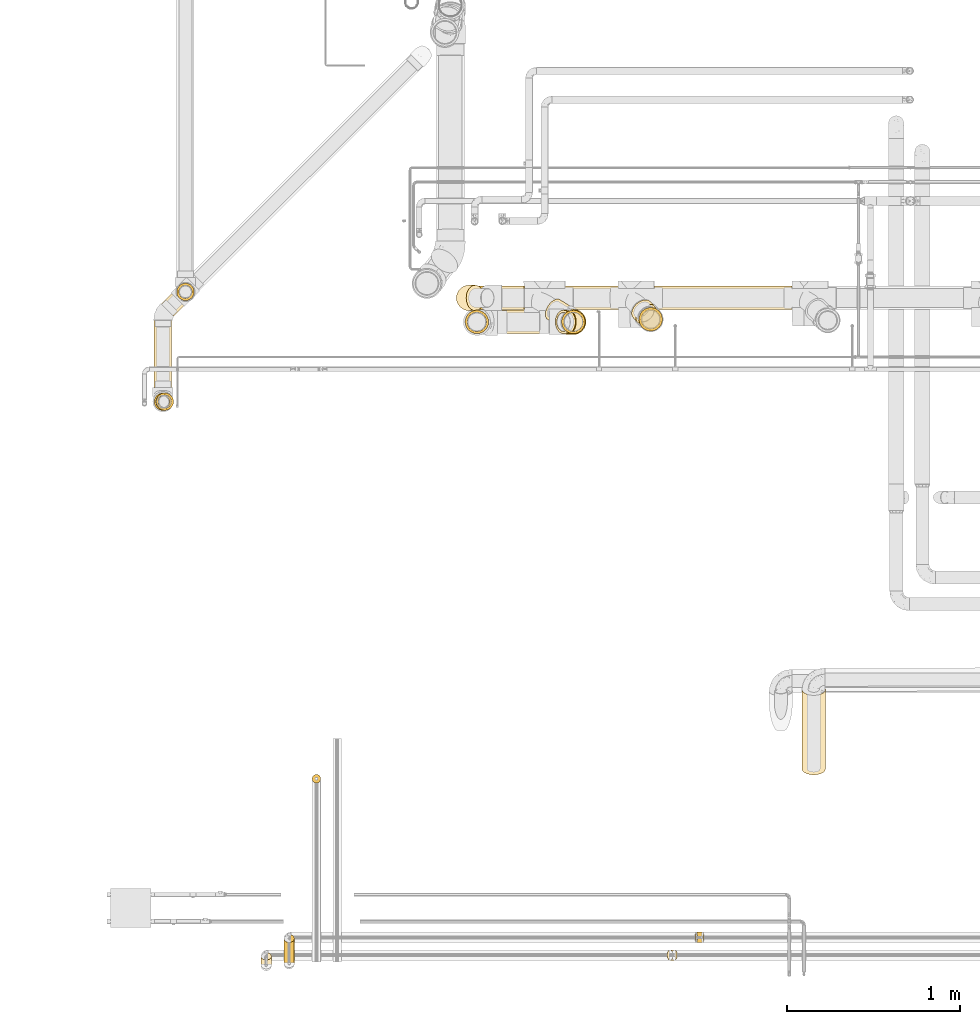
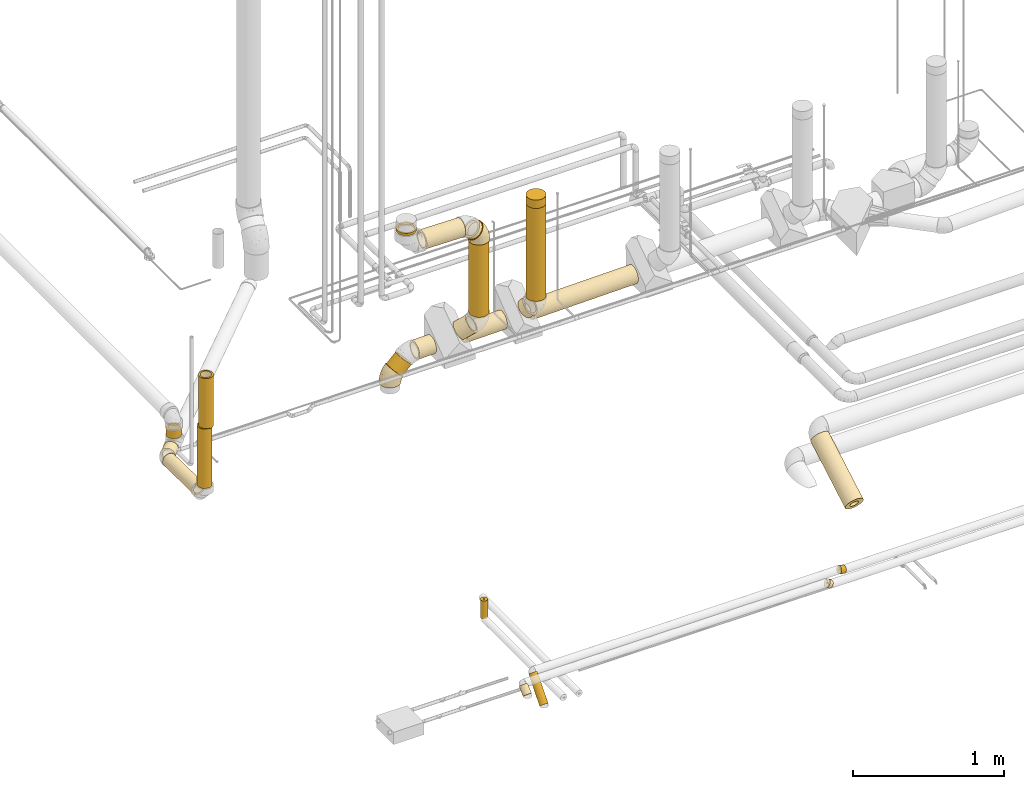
# One storey, part 2 of 156: 25 coverings.
"""IFC2X3 building model written with IfcOpenShell, lengths in millimetres."""

from ifc_helpers import new_model, entity, si_unit, converted_unit, derived_unit, direction, frame, origin_with_axes, origin_2d_with_axis, place, context, subcontext, project, spatial, hollow_circle, extrude, open_shell, surface_model, source, transform, mapped, element, save


model = new_model("IFC2X3")

# Units and contexts
model_context = context("Model", 3, precision=0.01, world=frame((0.0, 4.29681676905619e-09, 0.0)), true_north=direction((4.01073788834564e-13, 1.0)))
plan_context = context("Plan", 3, precision=0.01, world=frame((0.0, 4.29681676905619e-09, 0.0)), true_north=direction((4.01073788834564e-13, 1.0)))
body_context = subcontext(model_context, "Body", "Model", "MODEL_VIEW")
ifc_project = project(units=[converted_unit("PLANEANGLEUNIT", "DEGREE", entity("IfcPositiveLengthMeasure", 0.0174532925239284), si_unit("PLANEANGLEUNIT", "RADIAN"), dimensions=[0, 0, 0, 0, 0, 0, 0]), si_unit("AREAUNIT", "SQUARE_METRE"), si_unit("LENGTHUNIT", "METRE", prefix="MILLI"), si_unit("MASSUNIT", "GRAM", prefix="KILO"), si_unit("POWERUNIT", "WATT"), si_unit("PRESSUREUNIT", "PASCAL", prefix="KILO"), si_unit("FORCEUNIT", "NEWTON", prefix="KILO"), si_unit("ELECTRICVOLTAGEUNIT", "VOLT"), si_unit("ELECTRICCURRENTUNIT", "AMPERE"), si_unit("THERMODYNAMICTEMPERATUREUNIT", "DEGREE_CELSIUS"), si_unit("TIMEUNIT", "SECOND"), si_unit("VOLUMEUNIT", "CUBIC_METRE"), derived_unit("LINEARVELOCITYUNIT", [(si_unit("LENGTHUNIT", "METRE"), 1), (si_unit("TIMEUNIT", "SECOND"), -1)]), derived_unit("VOLUMETRICFLOWRATEUNIT", [(si_unit("VOLUMEUNIT", "CUBIC_METRE"), 1), (si_unit("TIMEUNIT", "SECOND"), -1)]), derived_unit("THERMALTRANSMITTANCEUNIT", [(si_unit("POWERUNIT", "WATT"), 1), (si_unit("THERMODYNAMICTEMPERATUREUNIT", "KELVIN"), -1), (si_unit("AREAUNIT", "SQUARE_METRE"), -1)]), derived_unit("SOUNDPRESSUREUNIT", [(si_unit("PRESSUREUNIT", "PASCAL"), 1)])], contexts=[model_context, plan_context])

# Site, building, storey
site_placement = place(None, frame((0.0, -4.29681676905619e-09, 0.0), z_axis=(0.0, 0.0, 1.0), x_axis=(1.0, 0.0, 0.0)))
site = spatial("IfcSite", under=ifc_project, at=site_placement, CompositionType="ELEMENT")
building_placement = place(site_placement, frame((0.0, 4.29681676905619e-09, 0.0), z_axis=(0.0, 0.0, 1.0), x_axis=(1.0, 0.0, 0.0)))
building = spatial("IfcBuilding", under=site, at=building_placement, Name="mc-building", CompositionType="ELEMENT")
storey_placement = place(building_placement, frame((0.0, 0.0, 205200.0), z_axis=(0.0, 0.0, 1.0), x_axis=(1.0, 0.0, 0.0)))
storey = spatial("IfcBuildingStorey", under=building, at=storey_placement, Name="Nivå D + 1,2 m", CompositionType="ELEMENT", Elevation=205200.0)

# Coverings
shared_shape_1 = source(origin_with_axes(), body_context, "Body", "SweptSolid", [
    extrude(hollow_circle(Radius=50.5, WallThickness=13.0, at=origin_2d_with_axis()), frame((0.0, 0.0, 0.0), z_axis=(1.0, 0.0, 0.0), x_axis=(0.0, 1.0, 0.0)), (0.0, 0.0, 1.0), 412.0),
])
covering_1_placement = place(storey_placement, frame((322659.16821, 462125.55139, 4598.01287999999), z_axis=(0.0, 1.0, 0.0), x_axis=(0.0, 0.0, 1.0)))
element("IfcCovering", 1, at=covering_1_placement, inside=storey, Name="BI17T - Cellegummi 13 mm SPV fett", PredefinedType="INSULATION", context=body_context, shape_type="MappedRepresentation", body=[
    mapped(shared_shape_1, transform((0.0, 0.0, 0.0), scale=1.0)),
])
shared_shape_2 = source(origin_with_axes(), body_context, "Body", "SweptSolid", [
    extrude(hollow_circle(Radius=68.0, WallThickness=13.0, at=origin_2d_with_axis()), frame((0.0, 0.0, 0.0), z_axis=(1.0, 0.0, 0.0), x_axis=(0.0, 1.0, 0.0)), (0.0, 0.0, 1.0), 99.0),
])
covering_2_placement = place(storey_placement, frame((324452.0866, 462724.75736, 4056.94635000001), z_axis=(-0.707106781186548, 0.0, 0.707106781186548), x_axis=(0.707106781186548, 0.0, 0.707106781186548)))
element("IfcCovering", 2, at=covering_2_placement, inside=storey, Name="BI17T - Cellegummi 13 mm SPV fett", PredefinedType="INSULATION", context=body_context, shape_type="MappedRepresentation", body=[
    mapped(shared_shape_2, transform((0.0, 0.0, 0.0), scale=1.0)),
])
shared_shape_3 = source(origin_with_axes(), body_context, "Body", "SurfaceModel", [
    surface_model("IfcShellBasedSurfaceModel", [(15.55917, 55.32099, 67.90986), (25.30961, 45.57056, 72.0902), (35.44008, 35.44008, 73.5), (55.3333, 15.54685, 67.90265), (64.31953, 6.56064, 61.10815), (45.58191, 25.29825, 72.08701), (-50.11984, 70.99555, -19.0232), (-50.11984, 70.99555, 19.0232), (-50.11984, 73.5, 0.0), (-50.11984, 63.65287, -36.75), (-50.11984, -19.0232, 70.99555), (-50.11984, 36.75, -63.65287), (-50.11984, 0.0, -73.5), (-50.11984, 51.97235, -51.97235), (-50.11984, 51.97235, 51.97235), (-50.11984, 63.65287, 36.75), (-50.11984, 19.0232, 70.99555), (-50.11984, 36.75, 63.65287), (-50.11984, 0.0, 73.5), (-50.11984, 19.0232, -70.99555), (-50.11984, -19.0232, -70.99555), (-50.11984, -51.97235, -51.97235), (-50.11984, -36.75, -63.65287), (-50.11984, -63.65287, -36.75), (-50.11984, -73.5, 0.0), (-50.11984, -70.99555, -19.0232), (-50.11984, -36.75, 63.65287), (-50.11984, -63.65287, 36.75), (-50.11984, -51.97235, 51.97235), (-50.11984, -70.99555, 19.0232), (4.83385, -11.66995, 69.93889), (-12.17477, -69.76274, 0.0), (5.47106, -63.34082, 16.85797), (24.31209, -58.69457, 0.0), (52.8356, -40.58128, 20.46241), (31.28542, -13.95595, 63.73529), (-11.70209, -55.05863, 43.55959), (-15.48663, -63.93403, 29.88743), (-5.11298, -30.31246, 63.58684), (22.17475, -51.29307, 32.65824), (17.5441, -34.97729, 54.76439), (-17.48463, -44.85254, 55.63353), (18.60902, -45.081, 44.17956), (-18.80274, 4.12297, 73.5), (51.47749, -35.2588, 33.5744), (57.93857, -40.72084, 0.0), (86.41555, -15.53539, 14.32665), (46.47904, -17.36978, 55.87406), (72.19529, -1.31513, 51.96498), (46.39615, -29.49322, 45.42373), (78.65805, -7.77789, 40.82479), (87.41242, -16.53227, 0.0), (10.38016, 16.21093, 73.5), (83.4596, -12.57944, 28.11586), (-41.03111, 75.30786, 0.0), (-29.5257, 16.17258, 72.12139), (-1.30471, 72.18487, 51.97971), (-16.17803, 66.51802, 46.63532), (-7.93405, 59.30084, 57.11817), (-1.68407, 33.88345, 70.33875), (-27.47038, 30.93139, 67.90515), (-15.53313, 86.41329, 14.34271), (-24.23732, 82.26407, 0.0), (-23.32895, 77.99618, 21.34079), (-21.65683, 52.28078, 56.82324), (-36.7774, 45.92029, 58.31147), (-35.68555, 73.38962, 18.04818), (-36.78684, 59.74575, 44.74396), (-27.98661, 69.36105, 34.6544), (-39.43278, 67.5041, 31.41719), (-12.57434, 83.4545, 28.13327), (-18.04026, 74.87686, 34.65411), (-7.7699, 78.65006, 40.8417), (6.57259, 64.30757, 61.11944), (-9.78753, 45.50133, 64.41145), (-31.94238, 77.11572, 0.0), (-16.53227, 87.41242, 0.0), (-39.43365, 67.50229, -31.42059), (-27.98963, 69.36981, -34.63712), (-36.7799, 59.74727, -44.74397), (-35.67695, 73.39476, -18.03863), (-18.03545, 74.89115, -34.6373), (-7.77789, 78.65805, -40.82479), (-16.18434, 66.52948, -46.61941), (-15.53539, 86.41555, -14.32665), (-16.39465, 20.01782, -72.04848), (-27.48676, 30.92728, -67.90515), (-1.71519, 33.88543, -70.33364), (-9.79264, 45.51856, -64.40178), (-21.66049, 52.29649, -56.81019), (-7.94214, 59.31576, -57.10449), (-18.80274, 4.12297, -73.5), (-36.77418, 45.92087, -58.31147), (-23.33104, 78.00091, -21.32394), (-12.57944, 83.4596, -28.11586), (15.54685, 55.3333, -67.90265), (-1.31513, 72.19529, -51.96498), (6.56064, 64.31953, -61.10815), (25.29825, 45.58191, -72.08701), (35.44008, 35.44008, -73.5), (10.38016, 16.21093, -73.5), (64.30757, 6.57259, -61.11944), (72.18487, -1.30471, -51.97971), (46.46727, -17.35932, -55.88715), (46.38681, -29.48448, -45.4395), (18.21757, -44.64753, -44.90164), (17.53181, -34.96665, -54.77751), (31.27347, -13.94379, -63.74481), (45.57056, 25.30961, -72.0902), (55.32099, 15.55917, -67.90986), (4.83385, -11.66995, -69.93889), (-5.08832, -30.29523, -63.59234), (-17.50112, -44.84165, -55.64551), (-11.71909, -55.06193, -43.56013), (22.17334, -51.28457, -32.67513), (52.83268, -40.57748, -20.47889), (5.47018, -63.33879, -16.8673), (-15.49272, -63.93366, -29.89077), (78.65006, -7.7699, -40.8417), (58.20434, -30.61628, -33.66415), (83.4545, -12.57434, -28.13327), (86.41329, -15.53313, -14.34271)], [open_shell([[[0, 1, 2]], [[3, 4, 5]], [[6, 7, 8]], [[9, 10, 6]], [[11, 12, 13]], [[13, 10, 9]], [[10, 14, 6]], [[7, 14, 15]], [[7, 6, 14]], [[14, 16, 17]], [[16, 14, 18]], [[14, 10, 18]], [[19, 12, 11]], [[20, 10, 12]], [[21, 20, 22]], [[10, 21, 23]], [[20, 21, 10]], [[24, 23, 25]], [[26, 27, 28]], [[26, 10, 23]], [[27, 24, 29]], [[27, 26, 23]], [[24, 27, 23]], [[12, 10, 13]], [[3, 5, 30]], [[29, 24, 31]], [[32, 31, 33]], [[33, 34, 32]], [[4, 3, 35]], [[36, 27, 37]], [[10, 26, 38]], [[34, 39, 32]], [[40, 41, 42]], [[40, 38, 41]], [[10, 43, 18]], [[43, 10, 30]], [[27, 36, 28]], [[3, 30, 35]], [[35, 38, 40]], [[44, 39, 34]], [[33, 45, 34]], [[45, 46, 34]], [[47, 48, 4]], [[44, 49, 42]], [[44, 50, 49]], [[46, 45, 51]], [[41, 26, 28]], [[10, 38, 30]], [[47, 49, 48]], [[36, 42, 41]], [[52, 5, 2]], [[30, 52, 43]], [[39, 36, 37]], [[29, 32, 37]], [[5, 52, 30]], [[47, 35, 40]], [[49, 47, 40]], [[35, 47, 4]], [[50, 48, 49]], [[29, 31, 32]], [[42, 36, 39]], [[34, 46, 53]], [[26, 41, 38]], [[38, 35, 30]], [[36, 41, 28]], [[29, 37, 27]], [[39, 37, 32]], [[34, 53, 44]], [[50, 44, 53]], [[44, 42, 39]], [[40, 42, 49]], [[54, 8, 7]], [[18, 43, 55]], [[56, 57, 58]], [[59, 60, 55]], [[61, 62, 63]], [[60, 64, 65]], [[54, 7, 66]], [[65, 67, 14]], [[63, 66, 68]], [[67, 15, 14]], [[67, 68, 69]], [[15, 67, 69]], [[58, 57, 64]], [[69, 7, 15]], [[43, 52, 59]], [[60, 65, 17]], [[70, 71, 72]], [[73, 74, 0]], [[1, 0, 59]], [[1, 52, 2]], [[66, 75, 54]], [[74, 73, 58]], [[60, 59, 74]], [[17, 16, 60]], [[56, 72, 57]], [[14, 17, 65]], [[75, 66, 63]], [[67, 57, 68]], [[55, 60, 16]], [[57, 71, 68]], [[70, 61, 63]], [[63, 68, 71]], [[68, 66, 69]], [[59, 52, 1]], [[7, 69, 66]], [[57, 67, 64]], [[67, 65, 64]], [[72, 71, 57]], [[70, 63, 71]], [[74, 58, 64]], [[56, 58, 73]], [[60, 74, 64]], [[0, 74, 59]], [[62, 61, 76]], [[62, 75, 63]], [[18, 55, 16]], [[59, 55, 43]], [[77, 78, 79]], [[6, 54, 80]], [[81, 82, 83]], [[62, 76, 84]], [[85, 86, 87]], [[88, 89, 90]], [[12, 19, 91]], [[83, 79, 78]], [[88, 86, 89]], [[6, 80, 77]], [[92, 11, 13]], [[19, 11, 86]], [[79, 83, 89]], [[80, 93, 78]], [[84, 94, 93]], [[79, 92, 13]], [[89, 83, 90]], [[87, 88, 95]], [[94, 82, 81]], [[82, 96, 83]], [[9, 79, 13]], [[77, 79, 9]], [[81, 78, 93]], [[90, 96, 97]], [[86, 85, 19]], [[95, 98, 87]], [[98, 99, 100]], [[80, 75, 93]], [[86, 11, 92]], [[100, 87, 98]], [[85, 100, 91]], [[100, 85, 87]], [[6, 77, 9]], [[84, 93, 62]], [[80, 78, 77]], [[92, 79, 89]], [[86, 92, 89]], [[78, 81, 83]], [[94, 81, 93]], [[96, 90, 83]], [[97, 95, 88]], [[88, 90, 97]], [[86, 88, 87]], [[93, 75, 62]], [[54, 6, 8]], [[54, 75, 80]], [[19, 85, 91]], [[101, 102, 103]], [[104, 105, 106]], [[20, 12, 91]], [[107, 103, 106]], [[108, 109, 110]], [[111, 110, 107]], [[112, 113, 21]], [[110, 111, 20]], [[24, 25, 31]], [[112, 106, 105]], [[114, 115, 116]], [[33, 31, 116]], [[113, 23, 21]], [[113, 117, 23]], [[20, 111, 22]], [[112, 22, 111]], [[110, 91, 100]], [[112, 111, 106]], [[100, 99, 108]], [[114, 116, 117]], [[101, 103, 107]], [[31, 25, 116]], [[110, 109, 107]], [[110, 20, 91]], [[117, 25, 23]], [[102, 118, 104]], [[115, 119, 120]], [[106, 103, 104]], [[105, 114, 113]], [[33, 116, 115]], [[121, 51, 45]], [[33, 115, 45]], [[121, 45, 115]], [[114, 104, 119]], [[118, 120, 119]], [[121, 115, 120]], [[111, 107, 106]], [[110, 100, 108]], [[104, 103, 102]], [[107, 109, 101]], [[22, 112, 21]], [[114, 117, 113]], [[25, 117, 116]], [[114, 119, 115]], [[118, 119, 104]], [[114, 105, 104]], [[112, 105, 113]], [[61, 70, 0]], [[61, 84, 76]], [[56, 70, 72]], [[95, 61, 120]], [[56, 73, 0]], [[70, 56, 0]], [[61, 0, 120]], [[84, 61, 94]], [[96, 82, 61]], [[61, 82, 94]], [[97, 96, 95]], [[99, 98, 95]], [[96, 61, 95]], [[95, 120, 99]], [[53, 2, 5]], [[48, 5, 4]], [[48, 50, 53]], [[53, 120, 2]], [[53, 5, 48]], [[51, 53, 46]], [[120, 102, 101]], [[120, 101, 109]], [[109, 108, 99]], [[121, 120, 53]], [[118, 102, 120]], [[120, 109, 99]], [[51, 121, 53]], [[120, 0, 2]]])]),
])
for number, where, z_axis, x_axis in (
    (3, (324416.64652, 462724.75736, 4021.50627000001), (0.0, 1.0, 0.0), (0.0, 0.0, 1.0)),
    (4, (325018.86668, 462586.08797, 5053.58843), (0.0, -1.0, 0.0), (0.0, 0.0, 1.0)),
):
    element("IfcCovering", number, at=place(storey_placement, frame(where, z_axis=z_axis, x_axis=x_axis)), inside=storey, Name="BI17T - Cellegummi 13 mm SPV fett", PredefinedType="INSULATION", context=body_context, shape_type="MappedRepresentation", body=[
        mapped(shared_shape_3, transform((0.0, 0.0, 0.0), scale=1.0)),
    ])
shared_shape_4 = source(origin_with_axes(), body_context, "Body", "SweptSolid", [
    extrude(hollow_circle(Radius=68.0, WallThickness=13.0, at=origin_2d_with_axis()), frame((0.0, 0.0, 0.0), z_axis=(1.0, 0.0, 0.0), x_axis=(0.0, 1.0, 0.0)), (0.0, 0.0, 1.0), 752.9),
])
covering_3_placement = place(storey_placement, frame((325465.89291, 462601.38941, 4378.03833000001), z_axis=(0.680367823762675, -0.732870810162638, 2.17099943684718e-09), x_axis=(1.3999999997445e-05, 1.29999999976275e-05, 0.9999999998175)))
element("IfcCovering", 5, at=covering_3_placement, inside=storey, Name="BI17T - Cellegummi 13 mm SPV fett", PredefinedType="INSULATION", context=body_context, shape_type="MappedRepresentation", body=[
    mapped(shared_shape_4, transform((0.0, 0.0, 0.0), scale=1.0)),
])
shared_shape_5 = source(origin_with_axes(), body_context, "Body", "SweptSolid", [
    extrude(hollow_circle(Radius=68.0, WallThickness=13.0, at=origin_2d_with_axis()), frame((0.0, 0.0, 0.0), z_axis=(1.0, 0.0, 0.0), x_axis=(0.0, 1.0, 0.0)), (0.0, 0.0, 1.0), 47.0),
])
covering_4_placement = place(storey_placement, frame((325438.05694, 462631.37343, 4287.33501000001), z_axis=(0.860099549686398, 0.335303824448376, -0.384447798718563), x_axis=(-0.510013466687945, 0.549370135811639, -0.661875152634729)))
element("IfcCovering", 6, at=covering_4_placement, inside=storey, Name="BI17T - Cellegummi 13 mm SPV fett", PredefinedType="INSULATION", context=body_context, shape_type="MappedRepresentation", body=[
    mapped(shared_shape_5, transform((0.0, 0.0, 0.0), scale=1.0)),
])
shared_shape_6 = source(origin_with_axes(), body_context, "Body", "SweptSolid", [
    extrude(hollow_circle(Radius=68.0, WallThickness=13.0, at=origin_2d_with_axis()), frame((0.0, 0.0, 0.0), z_axis=(1.0, 0.0, 0.0), x_axis=(0.0, 1.0, 0.0)), (0.0, 0.0, 1.0), 307.3),
])
covering_5_placement = place(storey_placement, frame((324972.19577, 462724.75736, 4168.50766), z_axis=(-0.0166640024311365, 0.0, 0.999861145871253), x_axis=(0.999861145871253, 0.0, 0.0166640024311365)))
element("IfcCovering", 7, at=covering_5_placement, inside=storey, Name="BI17T - Cellegummi 13 mm SPV fett", PredefinedType="INSULATION", context=body_context, shape_type="MappedRepresentation", body=[
    mapped(shared_shape_6, transform((0.0, 0.0, 0.0), scale=1.0)),
])
shared_shape_7 = source(origin_with_axes(), body_context, "Body", "SweptSolid", [
    extrude(hollow_circle(Radius=68.0, WallThickness=13.0, at=origin_2d_with_axis()), frame((0.0, 0.0, 0.0), z_axis=(1.0, 0.0, 0.0), x_axis=(0.0, 1.0, 0.0)), (0.0, 0.0, 1.0), 589.8),
])
covering_6_placement = place(storey_placement, frame((325018.86668, 462586.08797, 4413.68244), z_axis=(0.844860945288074, -0.534985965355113, 0.0), x_axis=(0.0, 0.0, 1.0)))
element("IfcCovering", 8, at=covering_6_placement, inside=storey, Name="BI17T - Cellegummi 13 mm SPV fett", PredefinedType="INSULATION", context=body_context, shape_type="MappedRepresentation", body=[
    mapped(shared_shape_7, transform((0.0, 0.0, 0.0), scale=1.0)),
])
shared_shape_8 = source(origin_with_axes(), body_context, "Body", "SweptSolid", [
    extrude(hollow_circle(Radius=68.0, WallThickness=13.0, at=origin_2d_with_axis()), frame((0.0, 0.0, 0.0), z_axis=(1.0, 0.0, 0.0), x_axis=(0.0, 1.0, 0.0)), (0.0, 0.0, 1.0), 101.9),
])
covering_7_placement = place(storey_placement, frame((324976.22439, 462613.09008, 4315.36215), z_axis=(0.72705601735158, 0.421509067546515, -0.541959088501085), x_axis=(-0.686504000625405, 0.434711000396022, -0.582871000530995)))
element("IfcCovering", 9, at=covering_7_placement, inside=storey, Name="BI17T - Cellegummi 13 mm SPV fett", PredefinedType="INSULATION", context=body_context, shape_type="MappedRepresentation", body=[
    mapped(shared_shape_8, transform((0.0, 0.0, 0.0), scale=1.0)),
])
shared_shape_9 = source(origin_with_axes(), body_context, "Body", "SweptSolid", [
    extrude(hollow_circle(Radius=68.0, WallThickness=13.0, at=origin_2d_with_axis()), frame((0.0, 0.0, 0.0), z_axis=(1.0, 0.0, 0.0), x_axis=(0.0, 1.0, 0.0)), (0.0, 0.0, 1.0), 129.8),
])
covering_8_placement = place(storey_placement, frame((324605.65923, 462724.75736, 4162.39872), z_axis=(-0.0166640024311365, 0.0, 0.999861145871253), x_axis=(0.999861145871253, 0.0, 0.0166640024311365)))
element("IfcCovering", 10, at=covering_8_placement, inside=storey, Name="BI17T - Cellegummi 13 mm SPV fett", PredefinedType="INSULATION", context=body_context, shape_type="MappedRepresentation", body=[
    mapped(shared_shape_9, transform((0.0, 0.0, 0.0), scale=1.0)),
])
shared_shape_10 = source(origin_with_axes(), body_context, "Body", "SweptSolid", [
    extrude(hollow_circle(Radius=68.0, WallThickness=13.0, at=origin_2d_with_axis()), frame((0.0, 0.0, 0.0), z_axis=(1.0, 0.0, 0.0), x_axis=(0.0, 1.0, 0.0)), (0.0, 0.0, 1.0), 29.3),
])
covering_9_placement = place(storey_placement, frame((324983.4266, 462586.08797, 5089.02851), z_axis=(0.707106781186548, 0.0, 0.707106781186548), x_axis=(-0.707106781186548, 0.0, 0.707106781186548)))
element("IfcCovering", 11, at=covering_9_placement, inside=storey, Name="BI17T - Cellegummi 13 mm SPV fett", PredefinedType="INSULATION", context=body_context, shape_type="MappedRepresentation", body=[
    mapped(shared_shape_10, transform((0.0, 0.0, 0.0), scale=1.0)),
])
shared_shape_11 = source(origin_with_axes(), body_context, "Body", "SweptSolid", [
    extrude(hollow_circle(Radius=68.0, WallThickness=13.0, at=origin_2d_with_axis()), frame((0.0, 0.0, 0.0), z_axis=(1.0, 0.0, 0.0), x_axis=(0.0, 1.0, 0.0)), (0.0, 0.0, 1.0), 796.4),
])
covering_10_placement = place(storey_placement, frame((325487.37227, 462724.75736, 4177.09393999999), z_axis=(-0.0166640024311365, 0.0, 0.999861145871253), x_axis=(0.999861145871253, 0.0, 0.0166640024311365)))
element("IfcCovering", 12, at=covering_10_placement, inside=storey, Name="BI17T - Cellegummi 13 mm SPV fett", PredefinedType="INSULATION", context=body_context, shape_type="MappedRepresentation", body=[
    mapped(shared_shape_11, transform((0.0, 0.0, 0.0), scale=1.0)),
])
shared_shape_12 = source(origin_with_axes(), body_context, "Body", "SurfaceModel", [
    surface_model("IfcShellBasedSurfaceModel", [(68.0, 34.0, 58.88973), (0.0, 34.0, 58.88973), (0.0, 17.5997, 65.68295), (68.0, 17.5997, 65.68295), (0.0, 0.0, 68.0), (68.0, 48.08326, 48.08326), (68.0, 0.0, 68.0), (0.0, 48.08326, 48.08326), (68.0, -34.0, 58.88973), (0.0, -34.0, 58.88973), (0.0, -48.08326, 48.08326), (0.0, -17.5997, 65.68295), (68.0, -17.5997, 65.68295), (68.0, -48.08326, 48.08326), (68.0, -58.88973, 34.0), (0.0, -58.88973, 34.0), (0.0, -65.68295, 17.5997), (68.0, -65.68295, 17.5997), (0.0, -68.0, 0.0), (68.0, -68.0, 0.0), (68.0, -65.68295, -17.5997), (0.0, -65.68295, -17.5997), (0.0, -58.88973, -34.0), (68.0, -58.88973, -34.0), (0.0, -48.08326, -48.08326), (68.0, -48.08326, -48.08326), (68.0, -34.0, -58.88973), (0.0, -34.0, -58.88973), (0.0, -17.5997, -65.68295), (68.0, -17.5997, -65.68295), (0.0, 0.0, -68.0), (68.0, 0.0, -68.0), (68.0, 17.5997, -65.68295), (0.0, 17.5997, -65.68295), (0.0, 34.0, -58.88973), (68.0, 34.0, -58.88973), (0.0, 48.08326, -48.08326), (68.0, 48.08326, -48.08326), (68.0, 58.88973, -34.0), (0.0, 58.88973, -34.0), (0.0, 65.68295, -17.5997), (68.0, 65.68295, -17.5997), (0.0, 68.0, 0.0), (68.0, 68.0, 0.0), (68.0, 65.68295, 17.5997), (68.0, 58.88973, 34.0), (0.0, 58.88973, 34.0), (0.0, 65.68295, 17.5997)], [open_shell([[[0, 1, 2]], [[3, 2, 4]], [[5, 1, 0]], [[0, 2, 3]], [[4, 6, 3]], [[1, 5, 7]], [[8, 9, 10]], [[6, 11, 12]], [[11, 6, 4]], [[12, 11, 9]], [[9, 8, 12]], [[10, 13, 8]], [[14, 15, 16]], [[17, 16, 18]], [[13, 15, 14]], [[14, 16, 17]], [[18, 19, 17]], [[15, 13, 10]], [[20, 21, 22]], [[23, 22, 24]], [[18, 21, 19]], [[19, 21, 20]], [[22, 23, 20]], [[24, 25, 23]], [[26, 27, 28]], [[29, 28, 30]], [[25, 27, 26]], [[26, 28, 29]], [[30, 31, 29]], [[27, 25, 24]], [[32, 33, 34]], [[35, 34, 36]], [[30, 33, 31]], [[31, 33, 32]], [[34, 35, 32]], [[36, 37, 35]], [[38, 39, 40]], [[41, 40, 42]], [[37, 39, 38]], [[38, 40, 41]], [[42, 43, 41]], [[39, 37, 36]], [[38, 35, 37]], [[38, 32, 35]], [[41, 43, 32]], [[41, 32, 38]], [[32, 43, 31]], [[31, 44, 29]], [[29, 44, 26]], [[5, 25, 26]], [[25, 0, 23]], [[23, 0, 20]], [[44, 31, 43]], [[45, 5, 26]], [[25, 5, 0]], [[3, 6, 20]], [[3, 20, 0]], [[6, 19, 20]], [[17, 12, 14]], [[17, 19, 6]], [[14, 8, 13]], [[8, 14, 12]], [[6, 12, 17]], [[45, 26, 44]], [[21, 18, 4]], [[4, 2, 21]], [[7, 22, 1]], [[1, 21, 2]], [[7, 46, 27]], [[9, 15, 10]], [[15, 9, 11]], [[11, 16, 15]], [[11, 4, 16]], [[4, 18, 16]], [[46, 47, 27]], [[33, 42, 40]], [[33, 40, 39]], [[34, 33, 39]], [[34, 39, 36]], [[42, 33, 30]], [[24, 22, 7]], [[21, 1, 22]], [[28, 27, 47]], [[24, 7, 27]], [[42, 30, 28]], [[28, 47, 42]], [[44, 47, 46]], [[45, 46, 7]], [[42, 47, 43]], [[43, 47, 44]], [[46, 45, 44]], [[7, 5, 45]]])]),
])
covering_11_placement = place(storey_placement, frame((325465.90325, 462601.39901, 5130.97503999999), z_axis=(0.99999999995, -2.58493941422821e-26, -9.9999999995e-06), x_axis=(9.999999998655e-06, 1.29999999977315e-05, 0.9999999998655)))
element("IfcCovering", 13, at=covering_11_placement, inside=storey, Name="BI17T - Cellegummi 13 mm SPV fett", PredefinedType="INSULATION", context=body_context, shape_type="MappedRepresentation", body=[
    mapped(shared_shape_12, transform((0.0, 0.0, 0.0), scale=1.0)),
])
shared_shape_13 = source(origin_with_axes(), body_context, "Body", "SweptSolid", [
    extrude(hollow_circle(Radius=68.0, WallThickness=13.0, at=origin_2d_with_axis()), frame((0.0, 0.0, 0.0), z_axis=(1.0, 0.0, 0.0), x_axis=(0.0, 1.0, 0.0)), (0.0, 0.0, 1.0), 298.5),
])
covering_12_placement = place(storey_placement, frame((324879.13368, 462586.08797, 5145.20117000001), z_axis=(0.0166640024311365, 0.0, 0.999861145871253), x_axis=(-0.999861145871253, 0.0, 0.0166640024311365)))
element("IfcCovering", 14, at=covering_12_placement, inside=storey, Name="BI17T - Cellegummi 13 mm SPV fett", PredefinedType="INSULATION", context=body_context, shape_type="MappedRepresentation", body=[
    mapped(shared_shape_13, transform((0.0, 0.0, 0.0), scale=1.0)),
])
shared_shape_14 = source(origin_with_axes(), body_context, "Body", "SweptSolid", [
    extrude(hollow_circle(Radius=68.0, WallThickness=13.0, at=origin_2d_with_axis()), frame((0.0, 0.0, 0.0), z_axis=(1.0, 0.0, 0.0), x_axis=(0.0, 1.0, 0.0)), (0.0, 0.0, 1.0), 19.3),
])
covering_13_placement = place(storey_placement, frame((324461.67326, 462586.08797, 5271.15898000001), z_axis=(0.0, 1.0, 0.0), x_axis=(0.0, 0.0, 1.0)))
element("IfcCovering", 15, at=covering_13_placement, inside=storey, Name="BI17T - Cellegummi 13 mm SPV fett", PredefinedType="INSULATION", context=body_context, shape_type="MappedRepresentation", body=[
    mapped(shared_shape_14, transform((0.0, 0.0, 0.0), scale=1.0)),
])
shared_shape_15 = source(origin_with_axes(), body_context, "Body", "SweptSolid", [
    extrude(hollow_circle(Radius=25.0, WallThickness=20.0, at=origin_2d_with_axis()), frame((0.0, 0.0, 0.0), z_axis=(1.0, 0.0, 0.0), x_axis=(0.0, 1.0, 0.0)), (0.0, 0.0, 1.0), 146.8),
])
covering_14_placement = place(storey_placement, frame((323535.0, 459947.49509, 4055.79999999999), z_axis=(1.0, 0.0, 0.0), x_axis=(0.0, 0.0, 1.0)))
element("IfcCovering", 16, at=covering_14_placement, inside=storey, Name="BI10T - Cellegummi 18-32 mm kalde rør", PredefinedType="INSULATION", context=body_context, shape_type="MappedRepresentation", body=[
    mapped(shared_shape_15, transform((0.0, 0.0, 0.0), scale=1.0)),
])
shared_shape_16 = source(origin_with_axes(), body_context, "Body", "SweptSolid", [
    extrude(hollow_circle(Radius=30.0, WallThickness=25.0, at=origin_2d_with_axis()), frame((0.0, 0.0, 0.0), z_axis=(1.0, 0.0, 0.0), x_axis=(0.0, 1.0, 0.0)), (0.0, 0.0, 1.0), 72.0),
])
covering_15_placement = place(storey_placement, frame((323245.0, 458870.66022, 4178.72893000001), z_axis=(0.0, -0.707106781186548, 0.707106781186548), x_axis=(0.0, 0.707106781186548, 0.707106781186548)))
element("IfcCovering", 17, at=covering_15_placement, inside=storey, Name="BI10T - Cellegummi 18-32 mm kalde rør", PredefinedType="INSULATION", context=body_context, shape_type="MappedRepresentation", body=[
    mapped(shared_shape_16, transform((0.0, 0.0, 0.0), scale=1.0)),
])
shared_shape_17 = source(origin_with_axes(), body_context, "Body", "SweptSolid", [
    extrude(hollow_circle(Radius=30.0, WallThickness=25.0, at=origin_2d_with_axis()), frame((0.0, 0.0, 0.0), z_axis=(1.0, 0.0, 0.0), x_axis=(0.0, 1.0, 0.0)), (0.0, 0.0, 1.0), 30.0),
])
covering_16_placement = place(storey_placement, frame((325577.51925, 458928.61963, 4235.00885000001), z_axis=(0.554700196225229, 0.0, 0.832050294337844), x_axis=(0.832050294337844, 0.0, -0.554700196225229)))
element("IfcCovering", 18, at=covering_16_placement, inside=storey, Name="BI10T - Cellegummi 18-32 mm kalde rør", PredefinedType="INSULATION", context=body_context, shape_type="MappedRepresentation", body=[
    mapped(shared_shape_17, transform((0.0, 0.0, 0.0), scale=1.0)),
])
shared_shape_18 = source(origin_with_axes(), body_context, "Body", "SweptSolid", [
    extrude(hollow_circle(Radius=30.0, WallThickness=25.0, at=origin_2d_with_axis()), frame((0.0, 0.0, 0.0), z_axis=(1.0, 0.0, 0.0), x_axis=(0.0, 1.0, 0.0)), (0.0, 0.0, 1.0), 225.2),
])
covering_17_placement = place(storey_placement, frame((323377.5, 458880.07084, 4048.10879), z_axis=(0.0, -0.766044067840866, 0.642788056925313), x_axis=(0.0, 0.642788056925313, 0.766044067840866)))
element("IfcCovering", 19, at=covering_17_placement, inside=storey, Name="BI10T - Cellegummi 18-32 mm kalde rør", PredefinedType="INSULATION", context=body_context, shape_type="MappedRepresentation", body=[
    mapped(shared_shape_18, transform((0.0, 0.0, 0.0), scale=1.0)),
])
shared_shape_19 = source(origin_with_axes(), body_context, "Body", "SweptSolid", [
    extrude(hollow_circle(Radius=30.0, WallThickness=25.0, at=origin_2d_with_axis()), frame((0.0, 0.0, 0.0), z_axis=(1.0, 0.0, 0.0), x_axis=(0.0, 1.0, 0.0)), (0.0, 0.0, 1.0), 38.8),
])
covering_18_placement = place(storey_placement, frame((325766.3057, 459031.28638, 4218.61902000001), z_axis=(0.242535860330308, 0.0, 0.970142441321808), x_axis=(-0.970142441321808, 0.0, 0.242535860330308)))
element("IfcCovering", 20, at=covering_18_placement, inside=storey, Name="BI10T - Cellegummi 18-32 mm kalde rør", PredefinedType="INSULATION", context=body_context, shape_type="MappedRepresentation", body=[
    mapped(shared_shape_19, transform((0.0, 0.0, 0.0), scale=1.0)),
])
shared_shape_20 = source(origin_with_axes(), body_context, "Body", "SweptSolid", [
    extrude(hollow_circle(Radius=67.5, WallThickness=35.0, at=origin_2d_with_axis()), frame((0.0, 0.0, 0.0), z_axis=(1.0, 0.0, 0.0), x_axis=(0.0, 1.0, 0.0)), (0.0, 0.0, 1.0), 530.1),
])
covering_19_placement = place(storey_placement, frame((326407.42979, 460003.78674, 3935.10000000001), z_axis=(0.0, -0.500000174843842, 0.866025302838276), x_axis=(0.0, 0.866025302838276, 0.500000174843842)))
element("IfcCovering", 21, at=covering_19_placement, inside=storey, Name="BI10T - Cellegummi 18-32 mm kalde rør", PredefinedType="INSULATION", context=body_context, shape_type="MappedRepresentation", body=[
    mapped(shared_shape_20, transform((0.0, 0.0, 0.0), scale=1.0)),
])
shared_shape_21 = source(origin_with_axes(), body_context, "Body", "SweptSolid", [
    extrude(hollow_circle(Radius=50.5, WallThickness=13.0, at=origin_2d_with_axis()), frame((0.0, 0.0, 0.0), z_axis=(1.0, 0.0, 0.0), x_axis=(0.0, 1.0, 0.0)), (0.0, 0.0, 1.0), 63.7),
])
covering_20_placement = place(storey_placement, frame((322778.39808, 462759.88016, 4159.13939), z_axis=(1.0, 0.0, 0.0), x_axis=(0.0, 0.0, -1.0)))
element("IfcCovering", 22, at=covering_20_placement, inside=storey, Name="BI17T - Cellegummi 13 mm SPV fett", PredefinedType="INSULATION", context=body_context, shape_type="MappedRepresentation", body=[
    mapped(shared_shape_21, transform((0.0, 0.0, 0.0), scale=1.0)),
])
shared_shape_22 = source(origin_with_axes(), body_context, "Body", "SweptSolid", [
    extrude(hollow_circle(Radius=50.5, WallThickness=13.0, at=origin_2d_with_axis()), frame((0.0, 0.0, 0.0), z_axis=(1.0, 0.0, 0.0), x_axis=(0.0, 1.0, 0.0)), (0.0, 0.0, 1.0), 85.8),
])
covering_21_placement = place(storey_placement, frame((322733.46368, 462714.91581, 4031.69910999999), z_axis=(-0.707121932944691, 0.70705793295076, -0.00690299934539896), x_axis=(-0.707057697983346, -0.706958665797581, 0.0166989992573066)))
element("IfcCovering", 23, at=covering_21_placement, inside=storey, Name="BI17T - Cellegummi 13 mm SPV fett", PredefinedType="INSULATION", context=body_context, shape_type="MappedRepresentation", body=[
    mapped(shared_shape_22, transform((0.0, 0.0, 0.0), scale=1.0)),
])
shared_shape_23 = source(origin_with_axes(), body_context, "Body", "SweptSolid", [
    extrude(hollow_circle(Radius=50.5, WallThickness=13.0, at=origin_2d_with_axis()), frame((0.0, 0.0, 0.0), z_axis=(1.0, 0.0, 0.0), x_axis=(0.0, 1.0, 0.0)), (0.0, 0.0, 1.0), 389.7),
])
covering_22_placement = place(storey_placement, frame((322648.61247, 462595.9149, 4034.52122), z_axis=(0.0, 0.0166640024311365, 0.999861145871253), x_axis=(0.0, -0.999861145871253, 0.0166640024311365)))
element("IfcCovering", 24, at=covering_22_placement, inside=storey, Name="BI17T - Cellegummi 13 mm SPV fett", PredefinedType="INSULATION", context=body_context, shape_type="MappedRepresentation", body=[
    mapped(shared_shape_23, transform((0.0, 0.0, 0.0), scale=1.0)),
])
shared_shape_24 = source(origin_with_axes(), body_context, "Body", "SweptSolid", [
    extrude(hollow_circle(Radius=50.5, WallThickness=13.0, at=origin_2d_with_axis()), frame((0.0, 0.0, 0.0), z_axis=(1.0, 0.0, 0.0), x_axis=(0.0, 1.0, 0.0)), (0.0, 0.0, 1.0), 481.5),
])
covering_23_placement = place(storey_placement, frame((322648.61247, 462125.10082, 4123.50458000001), z_axis=(0.0, 1.0, 0.0), x_axis=(0.0, 0.0, 1.0)))
element("IfcCovering", 25, at=covering_23_placement, inside=storey, Name="BI17T - Cellegummi 13 mm SPV fett", PredefinedType="INSULATION", context=body_context, shape_type="MappedRepresentation", body=[
    mapped(shared_shape_24, transform((0.0, 0.0, 0.0), scale=1.0)),
])

save(model, "model.ifc")
